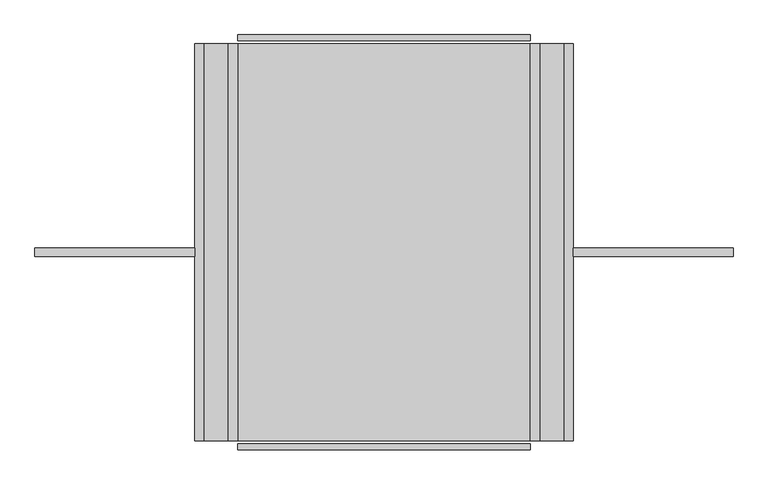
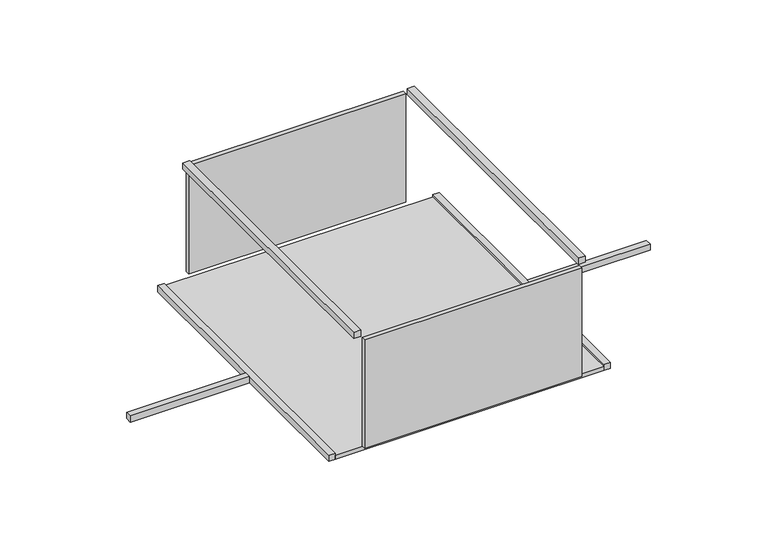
"""IFC4 building model written with IfcOpenShell, lengths in millimetres: proxy geometry, EMC_VEN_CLEVA 2.0_Right_V2 : CLEVA 3000 2.0 Right."""

import ifcopenshell
import ifcopenshell.guid

model = None  # the IFC model being written
_history = None  # IfcOwnerHistory: only IFC2X3 demands one
_inside = {}  # id of a spatial element -> (the spatial element, [elements in it])
_under = {}  # id of a project, library or spatial element -> (it, [spatial elements below it])
_declared = {}  # id of a project -> (the project, [libraries it declares])
_typed = {}  # id of a type object -> (the type object, [elements of that type])
_made_of = {}  # id of a material, layer set ... -> (it, [elements and type objects made of it])


def new_model(schema):
    """Start an empty IFC model of exactly this schema.

    Asked for "IFC4X3", IfcOpenShell would pick the latest addendum, in which some entities
    have other attributes; the version numbers below select the first issue.
    IFC2X3 requires an IfcOwnerHistory on every rooted entity: one is made here for all.
    """
    global model, _history
    if schema == "IFC4X3":
        model = ifcopenshell.file(schema_version=(4, 3, 0, 0))
    else:
        model = ifcopenshell.file(schema=schema)
    _inside.clear()
    _under.clear()
    _declared.clear()
    _typed.clear()
    _made_of.clear()
    _history = None
    if model.schema == "IFC2X3":
        org = make("IfcOrganization", Name="unknown")
        user = make(
            "IfcPersonAndOrganization",
            ThePerson=make("IfcPerson", FamilyName="unknown"),
            TheOrganization=org,
        )
        app = make(
            "IfcApplication",
            ApplicationDeveloper=org,
            Version="unknown",
            ApplicationFullName="unknown",
            ApplicationIdentifier="unknown",
        )
        _history = make(
            "IfcOwnerHistory",
            OwningUser=user,
            OwningApplication=app,
            ChangeAction="ADDED",
            CreationDate=0,
        )
    return model


def make(cls, **values):
    """One entity of the class cls with the attributes given. An attribute that is None is left unset."""
    return model.create_entity(
        cls, **{name: value for name, value in values.items() if value is not None}
    )


def rooted(cls, **values):
    """An entity with a GlobalId (a new one), such as an element, a storey or a relation."""
    return make(cls, GlobalId=ifcopenshell.guid.new(), OwnerHistory=_history, **values)


def si_unit(unit_type, name, prefix=None):
    """IfcSIUnit, for example si_unit("LENGTHUNIT", "METRE", prefix="MILLI")."""
    return make("IfcSIUnit", UnitType=unit_type, Prefix=prefix, Name=name)


def assignment(units):
    """IfcUnitAssignment: the units of a project."""
    return None if units is None else make("IfcUnitAssignment", Units=units)


def point(xyz):
    """IfcCartesianPoint."""
    return None if xyz is None else make("IfcCartesianPoint", Coordinates=xyz)


def direction(xyz):
    """IfcDirection."""
    return None if xyz is None else make("IfcDirection", DirectionRatios=xyz)


def frame(location, z_axis=None, x_axis=None):
    """IfcAxis2Placement3D, a coordinate frame: its origin and axes. An axis left out is left unset."""
    return make(
        "IfcAxis2Placement3D",
        Location=point(location),
        Axis=direction(z_axis),
        RefDirection=direction(x_axis),
    )


def origin():
    """The frame at (0, 0, 0) with its axes left unset."""
    return frame((0.0, 0.0, 0.0))


def origin_with_axes():
    """The frame at (0, 0, 0) with the z axis (0, 0, 1) and the x axis (1, 0, 0) written out."""
    return frame((0.0, 0.0, 0.0), z_axis=(0.0, 0.0, 1.0), x_axis=(1.0, 0.0, 0.0))


def place(relative_to, where):
    """IfcLocalPlacement: puts the frame where relative to a parent placement (None: the world)."""
    return make(
        "IfcLocalPlacement", PlacementRelTo=relative_to, RelativePlacement=where
    )


def context(
    kind, dimensions, precision=None, world=None, true_north=None, identifier=None
):
    """IfcGeometricRepresentationContext, for example the 3D "Model" context."""
    return make(
        "IfcGeometricRepresentationContext",
        ContextIdentifier=identifier,
        ContextType=kind,
        CoordinateSpaceDimension=dimensions,
        Precision=precision,
        WorldCoordinateSystem=world,
        TrueNorth=true_north,
    )


def project(units=None, contexts=None):
    """IfcProject with its units and contexts."""
    return rooted(
        "IfcProject",
        Name="project",
        RepresentationContexts=contexts,
        UnitsInContext=assignment(units),
    )


def spatial(cls, under=None, at=None, **own):
    """A site, building, storey or space (cls), placed at a placement, below another one or the project."""
    s = rooted(cls, ObjectPlacement=at, **own)
    if under is not None:
        _under.setdefault(under.id(), (under, []))[1].append(s)
    return s


def polyline(points):
    """IfcPolyline through the points."""
    return make("IfcPolyline", Points=[point(p) for p in points])


def outline(outer, holes=None, kind="AREA"):
    """IfcArbitraryClosedProfileDef: a profile drawn as a closed curve; with holes, ...WithVoids."""
    if holes is None:
        return make("IfcArbitraryClosedProfileDef", ProfileType=kind, OuterCurve=outer)
    return make(
        "IfcArbitraryProfileDefWithVoids",
        ProfileType=kind,
        OuterCurve=outer,
        InnerCurves=holes,
    )


def extrude(swept, where, along, depth):
    """IfcExtrudedAreaSolid: the profile swept, set in the frame where, extruded along a direction by depth."""
    return make(
        "IfcExtrudedAreaSolid",
        SweptArea=swept,
        Position=where,
        ExtrudedDirection=direction(along),
        Depth=depth,
    )


def shape(context_of_items, identifier, shape_type, items):
    """IfcShapeRepresentation: the items that make up one representation, for example the "Body"."""
    return make(
        "IfcShapeRepresentation",
        ContextOfItems=context_of_items,
        RepresentationIdentifier=identifier,
        RepresentationType=shape_type,
        Items=items,
    )


def source(mapping_origin, context_of_items, identifier, shape_type, items):
    """IfcRepresentationMap: a shape defined once, which mapped items show again and again."""
    return make(
        "IfcRepresentationMap",
        MappingOrigin=mapping_origin,
        MappedRepresentation=shape(context_of_items, identifier, shape_type, items),
    )


def transform(
    local_origin,
    x_axis=None,
    y_axis=None,
    z_axis=None,
    scale=None,
    scale2=None,
    scale3=None,
    uniform=True,
):
    """IfcCartesianTransformationOperator3D, or its non-uniform kind. x_axis, y_axis, z_axis: its Axis1, 2, 3."""
    if uniform:
        return make(
            "IfcCartesianTransformationOperator3D",
            Axis1=direction(x_axis),
            Axis2=direction(y_axis),
            LocalOrigin=point(local_origin),
            Scale=scale,
            Axis3=direction(z_axis),
        )
    return make(
        "IfcCartesianTransformationOperator3DnonUniform",
        Axis1=direction(x_axis),
        Axis2=direction(y_axis),
        LocalOrigin=point(local_origin),
        Scale=scale,
        Axis3=direction(z_axis),
        Scale2=scale2,
        Scale3=scale3,
    )


def mapped(mapping_source, mapping_target):
    """IfcMappedItem: shows the shape of a source again, moved by a transform."""
    return make(
        "IfcMappedItem", MappingSource=mapping_source, MappingTarget=mapping_target
    )


def made_of(thing, what):
    """Note that an element or type object is made of a material, layer set ...; save() writes the relation."""
    if what is not None:
        _made_of.setdefault(what.id(), (what, []))[1].append(thing)
    return thing


def element(
    cls,
    number,
    at=None,
    inside=None,
    cuts=None,
    type_object=None,
    material=None,
    context=None,
    identifier="Body",
    shape_type=None,
    held_by="IfcProductDefinitionShape",
    body=None,
    shapes=None,
    **own,
):
    """One element of the class cls, such as IfcWall. Its Tag is "e" and its number.

    at: its placement. inside: the storey or other place that contains it. cuts: it is an
    opening in that element (IfcRelVoidsElement). A single representation is given by context,
    identifier, shape_type and body (its items); several are given by shapes. held_by: the class
    of the entity that holds the representations. save() writes the other relations.
    """
    e = rooted(cls, Tag="e%d" % number, ObjectPlacement=at, **own)
    if body is not None:
        shapes = [shape(context, identifier, shape_type, body)]
    if shapes is not None:
        e.Representation = make(held_by, Representations=shapes)
    if inside is not None:
        _inside.setdefault(inside.id(), (inside, []))[1].append(e)
    if cuts is not None:
        rooted(
            "IfcRelVoidsElement", RelatingBuildingElement=cuts, RelatedOpeningElement=e
        )
    if type_object is not None:
        _typed.setdefault(type_object.id(), (type_object, []))[1].append(e)
    return made_of(e, material)


def aggregate(whole, parts):
    """IfcRelAggregates: a whole, such as a stair, and the parts it consists of."""
    return rooted("IfcRelAggregates", RelatingObject=whole, RelatedObjects=parts)


def save(model, path):
    """Write the relations noted so far, then the file.

    IfcRelAggregates (storeys below a building ...), IfcRelContainedInSpatialStructure (elements
    in a storey), IfcRelDefinesByType, IfcRelAssociatesMaterial and IfcRelDeclares: one each for
    every whole, place, type object, material and project.
    """
    for whole, parts in _under.values():
        aggregate(whole, parts)
    for where, things in _inside.values():
        rooted(
            "IfcRelContainedInSpatialStructure",
            RelatedElements=things,
            RelatingStructure=where,
        )
    for kind, things in _typed.values():
        rooted("IfcRelDefinesByType", RelatedObjects=things, RelatingType=kind)
    for what, things in _made_of.values():
        rooted("IfcRelAssociatesMaterial", RelatedObjects=things, RelatingMaterial=what)
    for by, libraries in _declared.values():
        rooted("IfcRelDeclares", RelatingContext=by, RelatedDefinitions=libraries)
    model.write(path)


def mechanical_equipment_cc5bcc0d(model_context):
    return source(origin(), model_context, "Body", "SweptSolid", [
        extrude(outline(polyline([(510.0, -705.0), (510.0, -725.0), (-510.0, -725.0), (-510.0, -705.0), (510.0, -705.0)])), frame((0.0, 0.0, 30.5), z_axis=(0.0, 0.0, 1.0), x_axis=(1.0, 0.0, 0.0)), (0.0, 0.0, 1.0), 538.0),
        extrude(outline(polyline([(510.0, 725.0), (510.0, 705.0), (-510.0, 705.0), (-510.0, 725.0), (510.0, 725.0)])), frame((0.0, 0.0, 30.5), z_axis=(0.0, 0.0, 1.0), x_axis=(1.0, 0.0, 0.0)), (0.0, 0.0, 1.0), 538.0),
        extrude(outline(polyline([(630.0, -694.0), (-630.0, -694.0), (-630.0, 694.0), (630.0, 694.0), (630.0, -694.0)])), origin_with_axes(), (0.0, 0.0, 1.0), 20.0),
        extrude(outline(polyline([(-660.0, -50.0), (-1219.0, -50.0), (-1219.0, -20.0), (-660.0, -20.0), (-660.0, -50.0)])), origin_with_axes(), (0.0, 0.0, 1.0), 30.5),
        extrude(outline(polyline([(660.0, -20.0), (1219.0, -20.0), (1219.0, -50.0), (660.0, -50.0), (660.0, -20.0)])), origin_with_axes(), (0.0, 0.0, 1.0), 30.5),
        extrude(outline(polyline([(-660.0, 694.0), (-630.0, 694.0), (-630.0, -694.0), (-660.0, -694.0), (-660.0, 694.0)])), origin_with_axes(), (0.0, 0.0, 1.0), 30.5),
        extrude(outline(polyline([(660.0, 694.0), (660.0, -694.0), (630.0, -694.0), (630.0, 694.0), (660.0, 694.0)])), origin_with_axes(), (0.0, 0.0, 1.0), 30.5),
        extrude(outline(polyline([(-510.0, 694.0), (-510.0, -694.0), (-543.0, -694.0), (-543.0, 694.0), (-510.0, 694.0)])), frame((0.0, 0.0, 568.5), z_axis=(0.0, 0.0, 1.0), x_axis=(1.0, 0.0, 0.0)), (0.0, 0.0, 1.0), 30.5),
        extrude(outline(polyline([(543.0, 694.0), (543.0, -694.0), (510.0, -694.0), (510.0, 694.0), (543.0, 694.0)])), frame((0.0, 0.0, 568.5), z_axis=(0.0, 0.0, 1.0), x_axis=(1.0, 0.0, 0.0)), (0.0, 0.0, 1.0), 30.5),
    ])


if __name__ == "__main__":
    model = new_model("IFC4")
    model_context = context("Model", 3, world=origin())
    ifc_project = project(units=[si_unit("LENGTHUNIT", "METRE", prefix="MILLI")], contexts=[model_context])
    site = spatial("IfcSite", under=ifc_project)
    building = spatial("IfcBuilding", under=site)
    placement = place(None, origin())
    mechanical_equipment_shape = mechanical_equipment_cc5bcc0d(model_context)
    element("IfcBuildingElementProxy", 1, Name="EMC_VEN_CLEVA 2.0_Right_V2 : CLEVA 3000 2.0 Right", ObjectType="EMC_VEN_CLEVA 2.0_Right_V2 : CLEVA 3000 2.0 Right", at=placement, inside=building, context=model_context, shape_type="MappedRepresentation", body=[
        mapped(mechanical_equipment_shape, transform((0.0, 0.0, 0.0), x_axis=(1.0, 0.0, 0.0), y_axis=(0.0, 1.0, 0.0), z_axis=(0.0, 0.0, 1.0))),
    ])
    save(model, "model.ifc")
